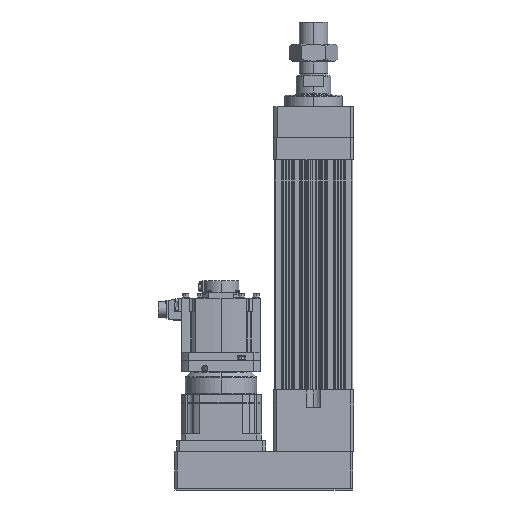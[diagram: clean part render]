
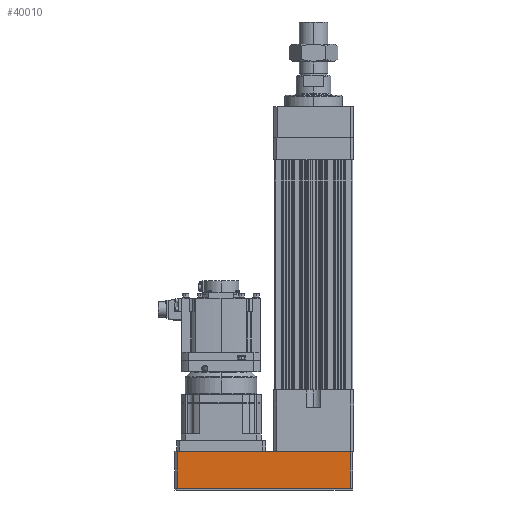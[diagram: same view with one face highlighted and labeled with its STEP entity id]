
A CAD part, left-side view. The second image highlights one B-rep face of the part: STEP entity #40010.
In plain terms, the highlighted planar face has unit normal (-1, 0, 0).
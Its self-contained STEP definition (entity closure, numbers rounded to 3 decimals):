
#1528 = EDGE_LOOP ( 'NONE', ( #26446, #2195, #38512, #34007 ) ) ;
#2195 = ORIENTED_EDGE ( 'NONE', *, *, #35293, .T. ) ;
#3536 = DIRECTION ( 'NONE',  ( 0., 0., 1. ) ) ;
#4241 = PLANE ( 'NONE',  #40098 ) ;
#6498 = VERTEX_POINT ( 'NONE', #17146 ) ;
#8492 = CARTESIAN_POINT ( 'NONE',  ( -88., -82., -221.5 ) ) ;
#11541 = DIRECTION ( 'NONE',  ( 1., 0., 0. ) ) ;
#15843 = LINE ( 'NONE', #17244, #25960 ) ;
#16607 = VECTOR ( 'NONE', #25896, 1000. ) ;
#17146 = CARTESIAN_POINT ( 'NONE',  ( -88., -82., -138.5 ) ) ;
#17244 = CARTESIAN_POINT ( 'NONE',  ( -88., -82., -221.5 ) ) ;
#19442 = LINE ( 'NONE', #51599, #27107 ) ;
#21231 = EDGE_CURVE ( 'NONE', #40949, #6498, #47707, .T. ) ;
#21246 = DIRECTION ( 'NONE',  ( 0., 0., -1. ) ) ;
#25551 = CARTESIAN_POINT ( 'NONE',  ( -88., -82., -222. ) ) ;
#25655 = VERTEX_POINT ( 'NONE', #35273 ) ;
#25896 = DIRECTION ( 'NONE',  ( 0., 0., 1. ) ) ;
#25960 = VECTOR ( 'NONE', #45651, 1000. ) ;
#26446 = ORIENTED_EDGE ( 'NONE', *, *, #47400, .F. ) ;
#27107 = VECTOR ( 'NONE', #3536, 1000. ) ;
#32798 = LINE ( 'NONE', #47373, #51242 ) ;
#33181 = CARTESIAN_POINT ( 'NONE',  ( -88., 306., -138.5 ) ) ;
#34007 = ORIENTED_EDGE ( 'NONE', *, *, #47422, .T. ) ;
#35273 = CARTESIAN_POINT ( 'NONE',  ( -88., 306., -221.5 ) ) ;
#35293 = EDGE_CURVE ( 'NONE', #25655, #40949, #15843, .T. ) ;
#35614 = FACE_OUTER_BOUND ( 'NONE', #1528, .T. ) ;
#35752 = CARTESIAN_POINT ( 'NONE',  ( -88., -82., -222. ) ) ;
#38512 = ORIENTED_EDGE ( 'NONE', *, *, #21231, .T. ) ;
#39522 = DIRECTION ( 'NONE',  ( 0., 1., 0. ) ) ;
#40010 = ADVANCED_FACE ( 'NONE', ( #35614 ), #4241, .F. ) ;
#40098 = AXIS2_PLACEMENT_3D ( 'NONE', #35752, #11541, #21246 ) ;
#40949 = VERTEX_POINT ( 'NONE', #8492 ) ;
#45651 = DIRECTION ( 'NONE',  ( 0., -1., 0. ) ) ;
#46354 = VERTEX_POINT ( 'NONE', #33181 ) ;
#47373 = CARTESIAN_POINT ( 'NONE',  ( -88., -82., -138.5 ) ) ;
#47400 = EDGE_CURVE ( 'NONE', #25655, #46354, #19442, .T. ) ;
#47422 = EDGE_CURVE ( 'NONE', #6498, #46354, #32798, .T. ) ;
#47707 = LINE ( 'NONE', #25551, #16607 ) ;
#51242 = VECTOR ( 'NONE', #39522, 1000. ) ;
#51599 = CARTESIAN_POINT ( 'NONE',  ( -88., 306., -222. ) ) ;
